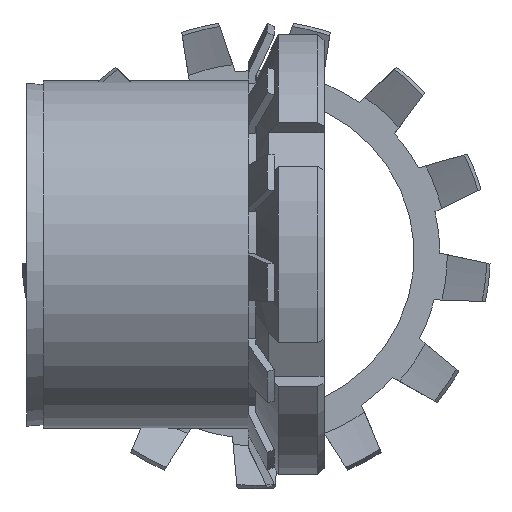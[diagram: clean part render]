
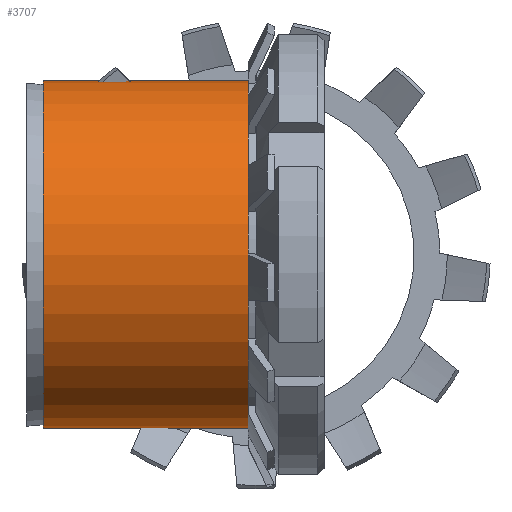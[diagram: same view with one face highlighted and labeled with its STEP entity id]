
A CAD part, left-side view. The second image highlights one B-rep face of the part: STEP entity #3707.
In plain terms, the highlighted cylindrical face has radius 27.5 mm (diameter 55 mm), a full revolution.
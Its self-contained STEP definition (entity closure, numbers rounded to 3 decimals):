
#3707 = ADVANCED_FACE( '', ( #4998, #4999 ), #5000, .T. );
#4998 = FACE_OUTER_BOUND( '', #5179, .T. );
#4999 = FACE_OUTER_BOUND( '', #5180, .T. );
#5000 = CYLINDRICAL_SURFACE( '', #5181, 27.5 );
#5179 = EDGE_LOOP( '', ( #5439 ) );
#5180 = EDGE_LOOP( '', ( #5440 ) );
#5181 = AXIS2_PLACEMENT_3D( '', #5441, #5442, #5443 );
#5439 = ORIENTED_EDGE( '', *, *, #5856, .F. );
#5440 = ORIENTED_EDGE( '', *, *, #5858, .T. );
#5441 = CARTESIAN_POINT( '', ( 0., -60., 0. ) );
#5442 = DIRECTION( '', ( 0., 1., 0. ) );
#5443 = DIRECTION( '', ( 0., 0., -1. ) );
#5856 = EDGE_CURVE( '', #6027, #6027, #6028, .T. );
#5858 = EDGE_CURVE( '', #6031, #6031, #6032, .T. );
#6027 = VERTEX_POINT( '', #6332 );
#6028 = CIRCLE( '', #6333, 27.5 );
#6031 = VERTEX_POINT( '', #6336 );
#6032 = CIRCLE( '', #6337, 27.5 );
#6332 = CARTESIAN_POINT( '', ( 0., 0., -27.5 ) );
#6333 = AXIS2_PLACEMENT_3D( '', #6570, #6571, #6572 );
#6336 = CARTESIAN_POINT( '', ( 0., 33.639, -27.5 ) );
#6337 = AXIS2_PLACEMENT_3D( '', #6576, #6577, #6578 );
#6570 = CARTESIAN_POINT( '', ( 0., 0., 0. ) );
#6571 = DIRECTION( '', ( 0., -1., 0. ) );
#6572 = DIRECTION( '', ( 0., 0., -1. ) );
#6576 = CARTESIAN_POINT( '', ( 0., 33.639, 0. ) );
#6577 = DIRECTION( '', ( 0., -1., 0. ) );
#6578 = DIRECTION( '', ( 0., 0., -1. ) );
